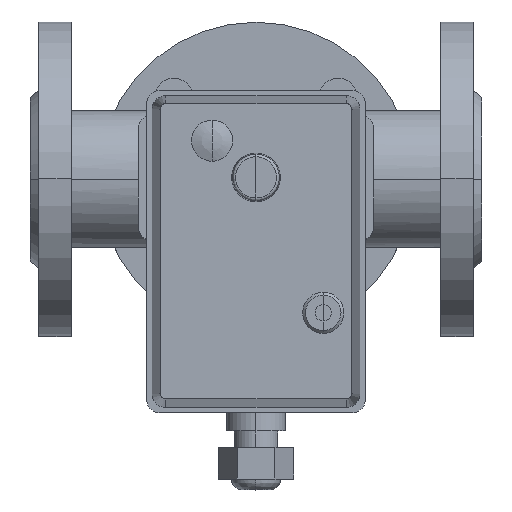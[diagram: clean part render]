
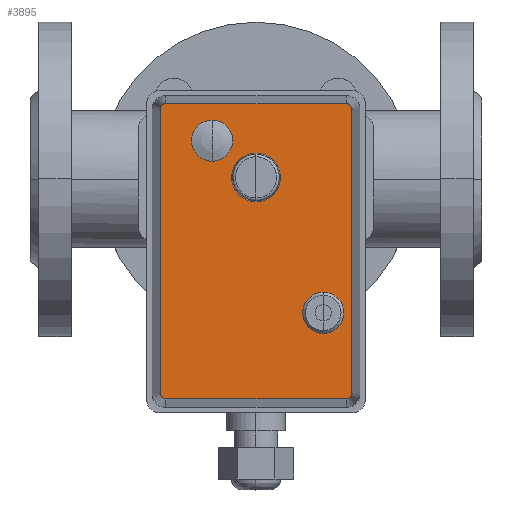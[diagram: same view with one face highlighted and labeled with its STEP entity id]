
A CAD part, top view. The second image highlights one B-rep face of the part: STEP entity #3895.
In plain terms, the highlighted planar face has unit normal (0, 0, 1).
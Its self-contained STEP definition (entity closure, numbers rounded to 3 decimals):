
#378=LINE('',#7121,#615);
#379=LINE('',#7125,#616);
#380=LINE('',#7129,#617);
#381=LINE('',#7132,#618);
#615=VECTOR('',#5486,304.8);
#616=VECTOR('',#5489,304.8);
#617=VECTOR('',#5492,304.8);
#618=VECTOR('',#5495,304.8);
#974=FACE_OUTER_BOUND('',#1242,.T.);
#1242=EDGE_LOOP('',(#3166,#3167,#3168,#3169,#3170,#3171,#3172,#3173));
#1495=CIRCLE('',#4368,2.);
#1496=CIRCLE('',#4369,2.);
#1497=CIRCLE('',#4370,2.);
#1498=CIRCLE('',#4371,2.);
#1793=VERTEX_POINT('',#7117);
#1794=VERTEX_POINT('',#7118);
#1795=VERTEX_POINT('',#7120);
#1796=VERTEX_POINT('',#7122);
#1797=VERTEX_POINT('',#7124);
#1798=VERTEX_POINT('',#7126);
#1799=VERTEX_POINT('',#7128);
#1800=VERTEX_POINT('',#7130);
#2260=EDGE_CURVE('',#1793,#1794,#1495,.T.);
#2261=EDGE_CURVE('',#1794,#1795,#378,.T.);
#2262=EDGE_CURVE('',#1795,#1796,#1496,.T.);
#2263=EDGE_CURVE('',#1796,#1797,#379,.T.);
#2264=EDGE_CURVE('',#1797,#1798,#1497,.T.);
#2265=EDGE_CURVE('',#1798,#1799,#380,.T.);
#2266=EDGE_CURVE('',#1799,#1800,#1498,.T.);
#2267=EDGE_CURVE('',#1800,#1793,#381,.T.);
#3166=ORIENTED_EDGE('',*,*,#2260,.T.);
#3167=ORIENTED_EDGE('',*,*,#2261,.T.);
#3168=ORIENTED_EDGE('',*,*,#2262,.T.);
#3169=ORIENTED_EDGE('',*,*,#2263,.T.);
#3170=ORIENTED_EDGE('',*,*,#2264,.T.);
#3171=ORIENTED_EDGE('',*,*,#2265,.T.);
#3172=ORIENTED_EDGE('',*,*,#2266,.T.);
#3173=ORIENTED_EDGE('',*,*,#2267,.T.);
#3427=PLANE('',#4367);
#3895=ADVANCED_FACE('',(#974),#3427,.T.);
#4367=AXIS2_PLACEMENT_3D('',#7116,#5482,#5483);
#4368=AXIS2_PLACEMENT_3D('',#7119,#5484,#5485);
#4369=AXIS2_PLACEMENT_3D('',#7123,#5487,#5488);
#4370=AXIS2_PLACEMENT_3D('',#7127,#5490,#5491);
#4371=AXIS2_PLACEMENT_3D('',#7131,#5493,#5494);
#5482=DIRECTION('center_axis',(0.,0.,1.));
#5483=DIRECTION('ref_axis',(0.,1.,0.));
#5484=DIRECTION('center_axis',(0.,0.,1.));
#5485=DIRECTION('ref_axis',(0.,-1.,0.));
#5486=DIRECTION('',(1.,0.,0.));
#5487=DIRECTION('center_axis',(0.,0.,
1.));
#5488=DIRECTION('ref_axis',(1.,0.,0.));
#5489=DIRECTION('',(0.,1.,0.));
#5490=DIRECTION('center_axis',(0.,0.,
1.));
#5491=DIRECTION('ref_axis',(0.,1.,0.));
#5492=DIRECTION('',(-1.,0.,0.));
#5493=DIRECTION('center_axis',(0.,0.,
1.));
#5494=DIRECTION('ref_axis',(-1.,0.,0.));
#5495=DIRECTION('',(0.,-1.,0.));
#7116=CARTESIAN_POINT('Origin',(-26.996,0.,
277.926));
#7117=CARTESIAN_POINT('',(-80.987,-33.,277.926));
#7118=CARTESIAN_POINT('',(-78.987,-35.,277.926));
#7119=CARTESIAN_POINT('Origin',(-78.987,-33.,277.926));
#7120=CARTESIAN_POINT('',(24.995,-35.,277.926));
#7121=CARTESIAN_POINT('',(24.995,-35.,277.926));
#7122=CARTESIAN_POINT('',(26.995,-33.,277.926));
#7123=CARTESIAN_POINT('Origin',(24.995,-33.,277.926));
#7124=CARTESIAN_POINT('',(26.995,33.,277.926));
#7125=CARTESIAN_POINT('',(26.995,33.,277.926));
#7126=CARTESIAN_POINT('',(24.995,35.,277.926));
#7127=CARTESIAN_POINT('Origin',(24.995,33.,277.926));
#7128=CARTESIAN_POINT('',(-78.987,35.,277.926));
#7129=CARTESIAN_POINT('',(-78.987,35.,277.926));
#7130=CARTESIAN_POINT('',(-80.987,33.,277.926));
#7131=CARTESIAN_POINT('Origin',(-78.987,33.,277.926));
#7132=CARTESIAN_POINT('',(-80.987,-33.,277.926));
